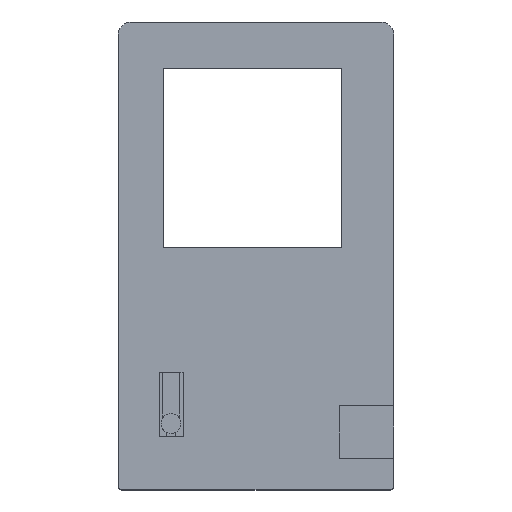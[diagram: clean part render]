
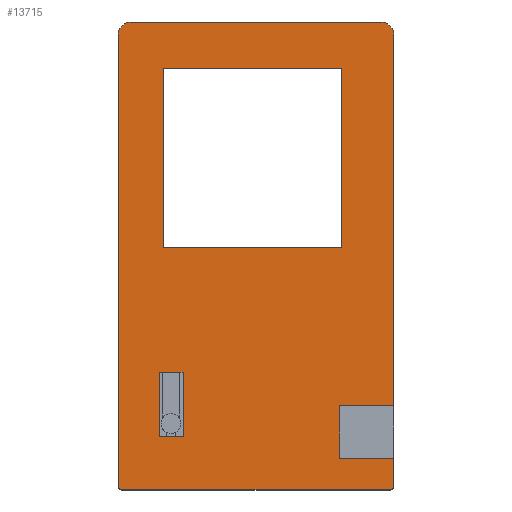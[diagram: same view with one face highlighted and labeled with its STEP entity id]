
A CAD part, top view. The second image highlights one B-rep face of the part: STEP entity #13715.
In plain terms, the highlighted planar face has unit normal (0, 0, 1).
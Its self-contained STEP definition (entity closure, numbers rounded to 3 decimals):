
#9077 = VERTEX_POINT('',#9078);
#9078 = CARTESIAN_POINT('',(16.8,-117.8,15.));
#9125 = VERTEX_POINT('',#9126);
#9126 = CARTESIAN_POINT('',(9.5,-117.8,15.));
#9132 = EDGE_CURVE('',#9077,#9125,#9133,.T.);
#9133 = LINE('',#9134,#9135);
#9134 = CARTESIAN_POINT('',(24.25,-117.8,15.));
#9135 = VECTOR('',#9136,1.);
#9136 = DIRECTION('',(-1.,0.,0.));
#9156 = VERTEX_POINT('',#9157);
#9157 = CARTESIAN_POINT('',(16.8,-98.2,15.));
#9163 = EDGE_CURVE('',#9077,#9156,#9164,.T.);
#9164 = LINE('',#9165,#9166);
#9165 = CARTESIAN_POINT('',(16.8,-90.502,15.));
#9166 = VECTOR('',#9167,1.);
#9167 = DIRECTION('',(0.,1.,0.));
#9187 = VERTEX_POINT('',#9188);
#9188 = CARTESIAN_POINT('',(9.5,-98.2,15.));
#9194 = EDGE_CURVE('',#9125,#9187,#9195,.T.);
#9195 = LINE('',#9196,#9197);
#9196 = CARTESIAN_POINT('',(9.5,-90.502,15.));
#9197 = VECTOR('',#9198,1.);
#9198 = DIRECTION('',(0.,1.,0.));
#9216 = EDGE_CURVE('',#9156,#9187,#9217,.T.);
#9217 = LINE('',#9218,#9219);
#9218 = CARTESIAN_POINT('',(24.25,-98.2,15.));
#9219 = VECTOR('',#9220,1.);
#9220 = DIRECTION('',(-1.,0.,0.));
#9576 = VERTEX_POINT('',#9577);
#9577 = CARTESIAN_POINT('',(65.1,-60.2,15.));
#9585 = VERTEX_POINT('',#9586);
#9586 = CARTESIAN_POINT('',(10.7,-60.2,15.));
#9592 = EDGE_CURVE('',#9576,#9585,#9593,.T.);
#9593 = LINE('',#9594,#9595);
#9594 = CARTESIAN_POINT('',(24.85,-60.2,15.));
#9595 = VECTOR('',#9596,1.);
#9596 = DIRECTION('',(-1.,0.,0.));
#9609 = VERTEX_POINT('',#9610);
#9610 = CARTESIAN_POINT('',(65.1,-5.8,15.));
#9616 = EDGE_CURVE('',#9576,#9609,#9617,.T.);
#9617 = LINE('',#9618,#9619);
#9618 = CARTESIAN_POINT('',(65.1,-61.702,15.));
#9619 = VECTOR('',#9620,1.);
#9620 = DIRECTION('',(0.,1.,0.));
#9633 = VERTEX_POINT('',#9634);
#9634 = CARTESIAN_POINT('',(10.7,-5.8,15.));
#9640 = EDGE_CURVE('',#9585,#9633,#9641,.T.);
#9641 = LINE('',#9642,#9643);
#9642 = CARTESIAN_POINT('',(10.7,-61.702,15.));
#9643 = VECTOR('',#9644,1.);
#9644 = DIRECTION('',(0.,1.,0.));
#9657 = EDGE_CURVE('',#9609,#9633,#9658,.T.);
#9658 = LINE('',#9659,#9660);
#9659 = CARTESIAN_POINT('',(24.85,-5.8,15.));
#9660 = VECTOR('',#9661,1.);
#9661 = DIRECTION('',(-1.,0.,0.));
#9984 = VERTEX_POINT('',#9985);
#9985 = CARTESIAN_POINT('',(-3.,-132.8,15.));
#10001 = VERTEX_POINT('',#10002);
#10002 = CARTESIAN_POINT('',(-1.8,-134.,15.));
#10008 = EDGE_CURVE('',#9984,#10001,#10009,.T.);
#10009 = CIRCLE('',#10010,1.2);
#10010 = AXIS2_PLACEMENT_3D('',#10011,#10012,#10013);
#10011 = CARTESIAN_POINT('',(-1.8,-132.8,15.));
#10012 = DIRECTION('',(0.,0.,1.));
#10013 = DIRECTION('',(1.,0.,0.));
#10023 = EDGE_CURVE('',#9984,#10024,#10026,.T.);
#10024 = VERTEX_POINT('',#10025);
#10025 = CARTESIAN_POINT('',(-3.,4.4,15.));
#10026 = LINE('',#10027,#10028);
#10027 = CARTESIAN_POINT('',(-3.,-130.,15.));
#10028 = VECTOR('',#10029,1.);
#10029 = DIRECTION('',(0.,1.,0.));
#10169 = EDGE_CURVE('',#10001,#10170,#10172,.T.);
#10170 = VERTEX_POINT('',#10171);
#10171 = CARTESIAN_POINT('',(79.8,-134.,15.));
#10172 = LINE('',#10173,#10174);
#10173 = CARTESIAN_POINT('',(-1.8,-134.,15.));
#10174 = VECTOR('',#10175,1.);
#10175 = DIRECTION('',(1.,0.,0.));
#10193 = EDGE_CURVE('',#10194,#10024,#10196,.T.);
#10194 = VERTEX_POINT('',#10195);
#10195 = CARTESIAN_POINT('',(1.,8.4,15.));
#10196 = CIRCLE('',#10197,4.);
#10197 = AXIS2_PLACEMENT_3D('',#10198,#10199,#10200);
#10198 = CARTESIAN_POINT('',(1.,4.4,15.));
#10199 = DIRECTION('',(0.,0.,1.));
#10200 = DIRECTION('',(1.,0.,0.));
#10359 = VERTEX_POINT('',#10360);
#10360 = CARTESIAN_POINT('',(81.,-132.8,15.));
#10366 = EDGE_CURVE('',#10170,#10359,#10367,.T.);
#10367 = CIRCLE('',#10368,1.2);
#10368 = AXIS2_PLACEMENT_3D('',#10369,#10370,#10371);
#10369 = CARTESIAN_POINT('',(79.8,-132.8,15.));
#10370 = DIRECTION('',(0.,0.,1.));
#10371 = DIRECTION('',(1.,0.,0.));
#10568 = EDGE_CURVE('',#10194,#10569,#10571,.T.);
#10569 = VERTEX_POINT('',#10570);
#10570 = CARTESIAN_POINT('',(77.,8.4,15.));
#10571 = LINE('',#10572,#10573);
#10572 = CARTESIAN_POINT('',(1.,8.4,15.));
#10573 = VECTOR('',#10574,1.);
#10574 = DIRECTION('',(1.,0.,0.));
#10718 = EDGE_CURVE('',#10719,#10569,#10721,.T.);
#10719 = VERTEX_POINT('',#10720);
#10720 = CARTESIAN_POINT('',(81.,4.4,15.));
#10721 = CIRCLE('',#10722,4.);
#10722 = AXIS2_PLACEMENT_3D('',#10723,#10724,#10725);
#10723 = CARTESIAN_POINT('',(77.,4.4,15.));
#10724 = DIRECTION('',(0.,0.,1.));
#10725 = DIRECTION('',(1.,0.,0.));
#12443 = VERTEX_POINT('',#12444);
#12444 = CARTESIAN_POINT('',(64.55,-124.385,15.));
#12459 = VERTEX_POINT('',#12460);
#12460 = CARTESIAN_POINT('',(64.55,-108.385,15.));
#12466 = EDGE_CURVE('',#12443,#12459,#12467,.T.);
#12467 = LINE('',#12468,#12469);
#12468 = CARTESIAN_POINT('',(64.55,-125.785,15.));
#12469 = VECTOR('',#12470,1.);
#12470 = DIRECTION('',(0.,1.,0.));
#13715 = ADVANCED_FACE('',(#13716,#13754,#13760),#13766,.T.);
#13716 = FACE_BOUND('',#13717,.T.);
#13717 = EDGE_LOOP('',(#13718,#13719,#13720,#13721,#13722,#13730,#13736,
    #13737,#13745,#13751,#13752,#13753));
#13718 = ORIENTED_EDGE('',*,*,#10023,.F.);
#13719 = ORIENTED_EDGE('',*,*,#10008,.T.);
#13720 = ORIENTED_EDGE('',*,*,#10169,.T.);
#13721 = ORIENTED_EDGE('',*,*,#10366,.T.);
#13722 = ORIENTED_EDGE('',*,*,#13723,.T.);
#13723 = EDGE_CURVE('',#10359,#13724,#13726,.T.);
#13724 = VERTEX_POINT('',#13725);
#13725 = CARTESIAN_POINT('',(81.,-124.385,15.));
#13726 = LINE('',#13727,#13728);
#13727 = CARTESIAN_POINT('',(81.,-132.8,15.));
#13728 = VECTOR('',#13729,1.);
#13729 = DIRECTION('',(0.,1.,0.));
#13730 = ORIENTED_EDGE('',*,*,#13731,.T.);
#13731 = EDGE_CURVE('',#13724,#12443,#13732,.T.);
#13732 = LINE('',#13733,#13734);
#13733 = CARTESIAN_POINT('',(51.075,-124.385,15.));
#13734 = VECTOR('',#13735,1.);
#13735 = DIRECTION('',(-1.,0.,0.));
#13736 = ORIENTED_EDGE('',*,*,#12466,.T.);
#13737 = ORIENTED_EDGE('',*,*,#13738,.F.);
#13738 = EDGE_CURVE('',#13739,#12459,#13741,.T.);
#13739 = VERTEX_POINT('',#13740);
#13740 = CARTESIAN_POINT('',(81.,-108.385,15.));
#13741 = LINE('',#13742,#13743);
#13742 = CARTESIAN_POINT('',(51.075,-108.385,15.));
#13743 = VECTOR('',#13744,1.);
#13744 = DIRECTION('',(-1.,0.,0.));
#13745 = ORIENTED_EDGE('',*,*,#13746,.T.);
#13746 = EDGE_CURVE('',#13739,#10719,#13747,.T.);
#13747 = LINE('',#13748,#13749);
#13748 = CARTESIAN_POINT('',(81.,-132.8,15.));
#13749 = VECTOR('',#13750,1.);
#13750 = DIRECTION('',(0.,1.,0.));
#13751 = ORIENTED_EDGE('',*,*,#10718,.T.);
#13752 = ORIENTED_EDGE('',*,*,#10568,.F.);
#13753 = ORIENTED_EDGE('',*,*,#10193,.T.);
#13754 = FACE_BOUND('',#13755,.T.);
#13755 = EDGE_LOOP('',(#13756,#13757,#13758,#13759));
#13756 = ORIENTED_EDGE('',*,*,#9592,.T.);
#13757 = ORIENTED_EDGE('',*,*,#9640,.T.);
#13758 = ORIENTED_EDGE('',*,*,#9657,.F.);
#13759 = ORIENTED_EDGE('',*,*,#9616,.F.);
#13760 = FACE_BOUND('',#13761,.T.);
#13761 = EDGE_LOOP('',(#13762,#13763,#13764,#13765));
#13762 = ORIENTED_EDGE('',*,*,#9132,.T.);
#13763 = ORIENTED_EDGE('',*,*,#9194,.T.);
#13764 = ORIENTED_EDGE('',*,*,#9216,.F.);
#13765 = ORIENTED_EDGE('',*,*,#9163,.F.);
#13766 = PLANE('',#13767);
#13767 = AXIS2_PLACEMENT_3D('',#13768,#13769,#13770);
#13768 = CARTESIAN_POINT('',(40.763,-66.841,15.));
#13769 = DIRECTION('',(0.,0.,1.));
#13770 = DIRECTION('',(1.,0.,0.));
